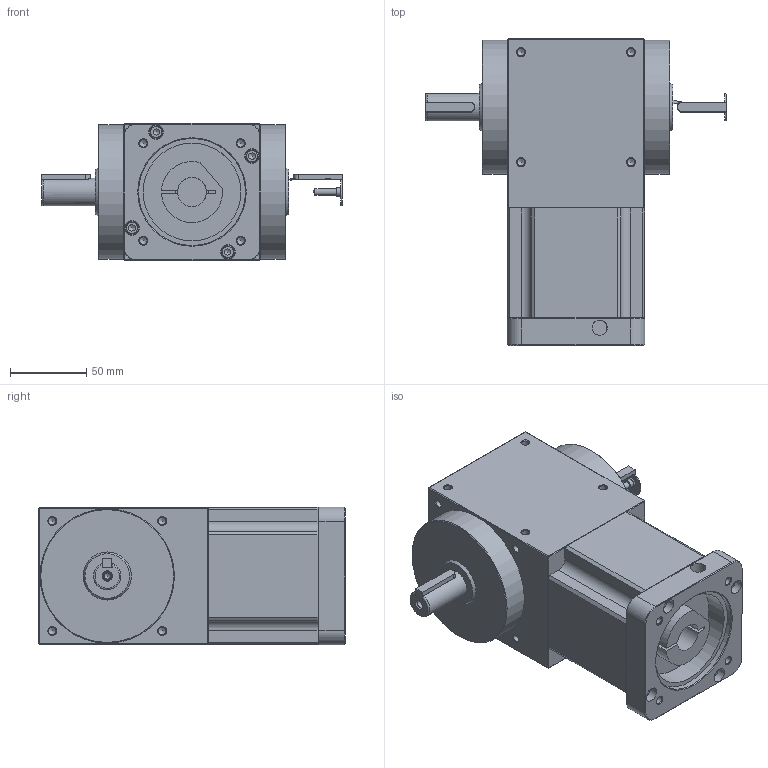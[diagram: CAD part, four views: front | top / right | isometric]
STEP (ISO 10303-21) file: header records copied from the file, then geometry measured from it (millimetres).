
FILE_DESCRIPTION((''),'2;1');
FILE_NAME('D:\유성\SBT 베벨기어박스\최종도면모음\3D\SBT090\SBT090PTS003~010K.stp','2014-05-20T10:35:59',('nagyu'),(''),'Autodesk Inventor 2013','Autodesk Inventor 2013','');
FILE_SCHEMA(('AUTOMOTIVE_DESIGN { 1 0 10303 214 1 1 1 1 }'));
Length unit declared in the file: millimetre
Products named in the file (1): SBT090PTS003~010K_Shrinkwrap_1
Bounding box: 197 x 201 x 90 mm (x, y, z)
Volume: 1707888.9 mm3; surface area: 117609.7 mm2
Topology: 1 solids, 5 shells, 340 faces, 845 edges, 508 vertices
Faces by surface type: plane 147, cylinder 96, cone 77, torus 10, bspline 10
Full cylindrical faces by diameter (mm): 4.134 x2, 4.917 x44, 5 x4, 5.5 x6, 6 x2, 8.5 x4, 9.5 x4, 10 x1, 18 x3, 19 x1, 22 x1, 64 x1, 70 x1, 88 x2
Entity records: 9179 total; most frequent: CARTESIAN_POINT 2031, DIRECTION 1526, ORIENTED_EDGE 1242, EDGE_CURVE 621, AXIS2_PLACEMENT_3D 620, EDGE_LOOP 520, VERTEX_POINT 437, FACE_OUTER_BOUND 339
